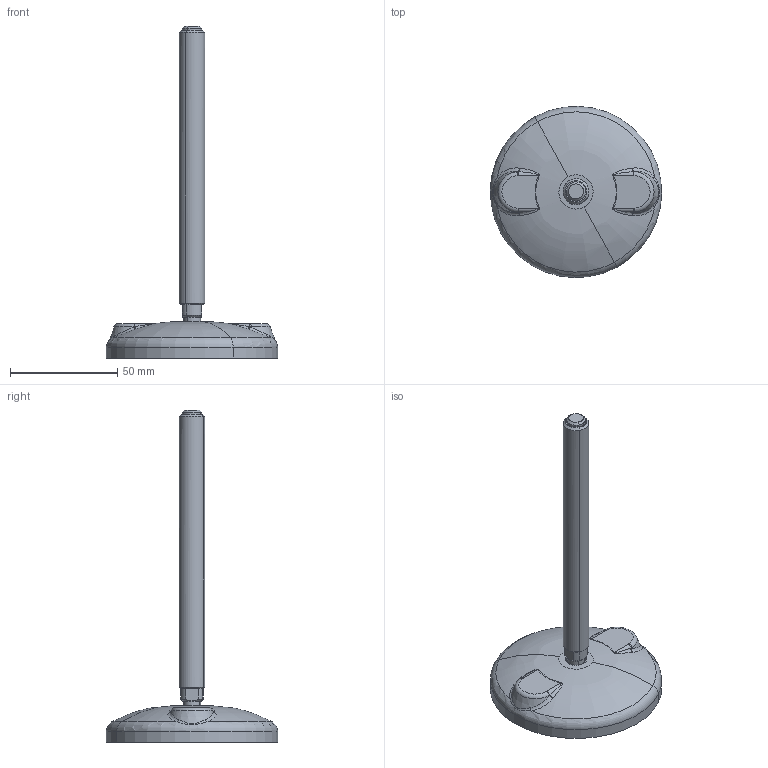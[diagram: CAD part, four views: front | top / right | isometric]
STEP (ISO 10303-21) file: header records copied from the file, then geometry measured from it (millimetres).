
FILE_DESCRIPTION(('STEP AP214'),'1');
FILE_NAME('P95303Z_01','2017-01-18T08:24:01',('dentellad'),(' '),'Spatial InterOp 3D',' ',' ');
FILE_SCHEMA(('automotive_design'));
Length unit declared in the file: millimetre
Products named in the file (2): 1; 2
Bounding box: 79.98 x 79.98 x 155 mm (x, y, z)
Volume: 45208.7 mm3; surface area: 25876.9 mm2
Topology: 2 solids, 2 shells, 645 faces, 1832 edges, 1201 vertices
Faces by surface type: plane 489, torus 52, cylinder 36, revolution 21, sphere 18, cone 15, bspline 14
Entity records: 38012 total; most frequent: CARTESIAN_POINT 9069, ORIENTED_EDGE 3650, STYLED_ITEM 2459, PRESENTATION_STYLE_ASSIGNMENT 2459, COLOUR_RGB 2459, DIRECTION 2180, EDGE_CURVE 1825, CURVE_STYLE 1812
